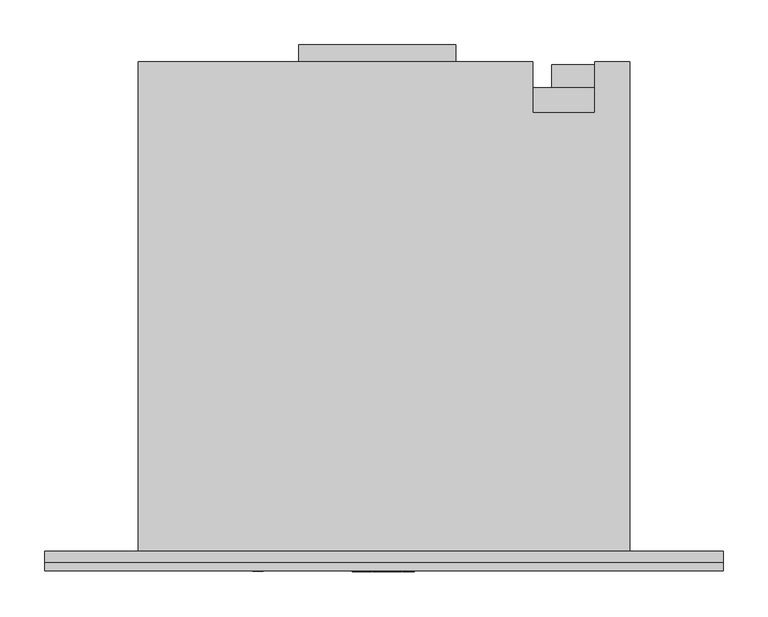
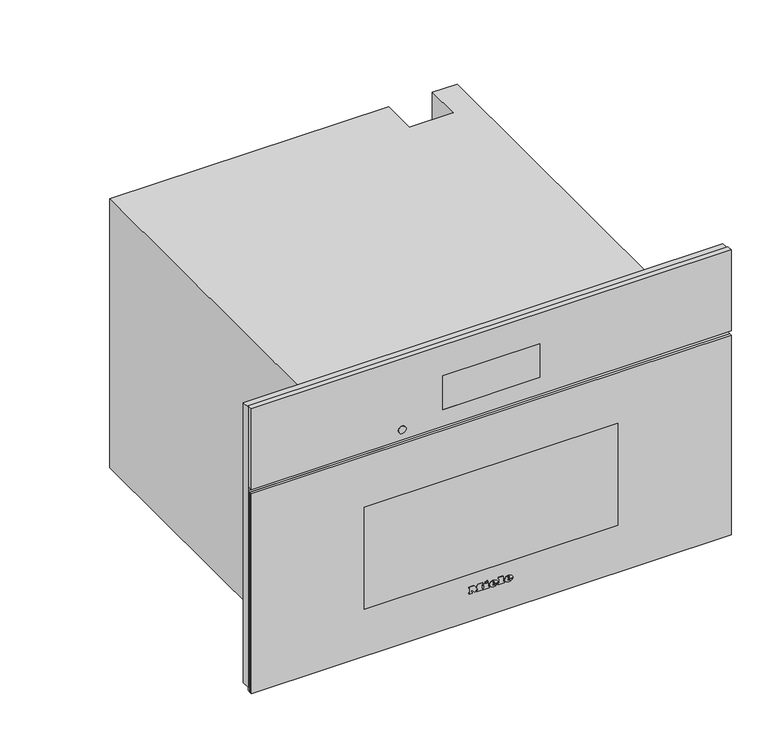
"""IFC4 building model written with IfcOpenShell, lengths in millimetres: proxy geometry, 11877030_USA_DGC7870X_GRGR : 23787072_USA_11877030_DGC7870X_GRGR."""

import ifcopenshell
import ifcopenshell.guid

model = None  # the IFC model being written
_history = None  # IfcOwnerHistory: only IFC2X3 demands one
_inside = {}  # id of a spatial element -> (the spatial element, [elements in it])
_under = {}  # id of a project, library or spatial element -> (it, [spatial elements below it])
_declared = {}  # id of a project -> (the project, [libraries it declares])
_typed = {}  # id of a type object -> (the type object, [elements of that type])
_made_of = {}  # id of a material, layer set ... -> (it, [elements and type objects made of it])


def new_model(schema):
    """Start an empty IFC model of exactly this schema.

    Asked for "IFC4X3", IfcOpenShell would pick the latest addendum, in which some entities
    have other attributes; the version numbers below select the first issue.
    IFC2X3 requires an IfcOwnerHistory on every rooted entity: one is made here for all.
    """
    global model, _history
    if schema == "IFC4X3":
        model = ifcopenshell.file(schema_version=(4, 3, 0, 0))
    else:
        model = ifcopenshell.file(schema=schema)
    _inside.clear()
    _under.clear()
    _declared.clear()
    _typed.clear()
    _made_of.clear()
    _history = None
    if model.schema == "IFC2X3":
        org = make("IfcOrganization", Name="unknown")
        user = make(
            "IfcPersonAndOrganization",
            ThePerson=make("IfcPerson", FamilyName="unknown"),
            TheOrganization=org,
        )
        app = make(
            "IfcApplication",
            ApplicationDeveloper=org,
            Version="unknown",
            ApplicationFullName="unknown",
            ApplicationIdentifier="unknown",
        )
        _history = make(
            "IfcOwnerHistory",
            OwningUser=user,
            OwningApplication=app,
            ChangeAction="ADDED",
            CreationDate=0,
        )
    return model


def make(cls, **values):
    """One entity of the class cls with the attributes given. An attribute that is None is left unset."""
    return model.create_entity(
        cls, **{name: value for name, value in values.items() if value is not None}
    )


def rooted(cls, **values):
    """An entity with a GlobalId (a new one), such as an element, a storey or a relation."""
    return make(cls, GlobalId=ifcopenshell.guid.new(), OwnerHistory=_history, **values)


def si_unit(unit_type, name, prefix=None):
    """IfcSIUnit, for example si_unit("LENGTHUNIT", "METRE", prefix="MILLI")."""
    return make("IfcSIUnit", UnitType=unit_type, Prefix=prefix, Name=name)


def assignment(units):
    """IfcUnitAssignment: the units of a project."""
    return None if units is None else make("IfcUnitAssignment", Units=units)


def point(xyz):
    """IfcCartesianPoint."""
    return None if xyz is None else make("IfcCartesianPoint", Coordinates=xyz)


def direction(xyz):
    """IfcDirection."""
    return None if xyz is None else make("IfcDirection", DirectionRatios=xyz)


def frame(location, z_axis=None, x_axis=None):
    """IfcAxis2Placement3D, a coordinate frame: its origin and axes. An axis left out is left unset."""
    return make(
        "IfcAxis2Placement3D",
        Location=point(location),
        Axis=direction(z_axis),
        RefDirection=direction(x_axis),
    )


def frame_2d(location, x_axis=None):
    """IfcAxis2Placement2D, a coordinate frame in the plane: its origin and x axis."""
    return make(
        "IfcAxis2Placement2D", Location=point(location), RefDirection=direction(x_axis)
    )


def origin():
    """The frame at (0, 0, 0) with its axes left unset."""
    return frame((0.0, 0.0, 0.0))


def place(relative_to, where):
    """IfcLocalPlacement: puts the frame where relative to a parent placement (None: the world)."""
    return make(
        "IfcLocalPlacement", PlacementRelTo=relative_to, RelativePlacement=where
    )


def context(
    kind, dimensions, precision=None, world=None, true_north=None, identifier=None
):
    """IfcGeometricRepresentationContext, for example the 3D "Model" context."""
    return make(
        "IfcGeometricRepresentationContext",
        ContextIdentifier=identifier,
        ContextType=kind,
        CoordinateSpaceDimension=dimensions,
        Precision=precision,
        WorldCoordinateSystem=world,
        TrueNorth=true_north,
    )


def project(units=None, contexts=None):
    """IfcProject with its units and contexts."""
    return rooted(
        "IfcProject",
        Name="project",
        RepresentationContexts=contexts,
        UnitsInContext=assignment(units),
    )


def spatial(cls, under=None, at=None, **own):
    """A site, building, storey or space (cls), placed at a placement, below another one or the project."""
    s = rooted(cls, ObjectPlacement=at, **own)
    if under is not None:
        _under.setdefault(under.id(), (under, []))[1].append(s)
    return s


def polyline(points):
    """IfcPolyline through the points."""
    return make("IfcPolyline", Points=[point(p) for p in points])


def circle_curve(where, radius):
    """IfcCircle in the frame where."""
    return make("IfcCircle", Position=where, Radius=radius)


def ellipse_curve(where, semi_axis1, semi_axis2):
    """IfcEllipse in the frame where."""
    return make(
        "IfcEllipse", Position=where, SemiAxis1=semi_axis1, SemiAxis2=semi_axis2
    )


def trimmed(basis, trim1, trim2, sense, master):
    """IfcTrimmedCurve: the piece of a basis curve between two trims."""
    return make(
        "IfcTrimmedCurve",
        BasisCurve=basis,
        Trim1=trim1,
        Trim2=trim2,
        SenseAgreement=sense,
        MasterRepresentation=master,
    )


def segment(curve, same_sense, transition):
    """IfcCompositeCurveSegment."""
    return make(
        "IfcCompositeCurveSegment",
        Transition=transition,
        SameSense=same_sense,
        ParentCurve=curve,
    )


def composite_curve(segments, self_intersect=None):
    """IfcCompositeCurve: segments joined end to end."""
    return make("IfcCompositeCurve", Segments=segments, SelfIntersect=self_intersect)


def outline(outer, holes=None, kind="AREA"):
    """IfcArbitraryClosedProfileDef: a profile drawn as a closed curve; with holes, ...WithVoids."""
    if holes is None:
        return make("IfcArbitraryClosedProfileDef", ProfileType=kind, OuterCurve=outer)
    return make(
        "IfcArbitraryProfileDefWithVoids",
        ProfileType=kind,
        OuterCurve=outer,
        InnerCurves=holes,
    )


def extrude(swept, where, along, depth):
    """IfcExtrudedAreaSolid: the profile swept, set in the frame where, extruded along a direction by depth."""
    return make(
        "IfcExtrudedAreaSolid",
        SweptArea=swept,
        Position=where,
        ExtrudedDirection=direction(along),
        Depth=depth,
    )


def faces_of(points, faces, orient=None, outer=None):
    """IfcFace entities. A face is a list of loops; a loop is a list of indices into points, from 0.

    orient and outer hold one flag for each loop. By default every Orientation is true, the
    first loop of a face is its IfcFaceOuterBound and the others are IfcFaceBound.
    """
    made = []
    for i, loops in enumerate(faces):
        bounds = []
        for j, loop in enumerate(loops):
            is_outer = j == 0 if outer is None else outer[i][j]
            bounds.append(
                make(
                    "IfcFaceOuterBound" if is_outer else "IfcFaceBound",
                    Bound=make("IfcPolyLoop", Polygon=[points[k] for k in loop]),
                    Orientation=True if orient is None else orient[i][j],
                )
            )
        made.append(make("IfcFace", Bounds=bounds))
    return made


def faceted_brep(points, faces, orient=None, outer=None, voids=None):
    """IfcFacetedBrep: a solid bounded by flat faces; with voids (closed shells), ...WithVoids."""
    shared = [point(p) for p in points]
    hull = make("IfcClosedShell", CfsFaces=faces_of(shared, faces, orient, outer))
    if voids is None:
        return make("IfcFacetedBrep", Outer=hull)
    return make(
        "IfcFacetedBrepWithVoids",
        Outer=hull,
        Voids=[
            make(cls, CfsFaces=faces_of(shared, fs, o, b)) for cls, fs, o, b in voids
        ],
    )


def shape(context_of_items, identifier, shape_type, items):
    """IfcShapeRepresentation: the items that make up one representation, for example the "Body"."""
    return make(
        "IfcShapeRepresentation",
        ContextOfItems=context_of_items,
        RepresentationIdentifier=identifier,
        RepresentationType=shape_type,
        Items=items,
    )


def source(mapping_origin, context_of_items, identifier, shape_type, items):
    """IfcRepresentationMap: a shape defined once, which mapped items show again and again."""
    return make(
        "IfcRepresentationMap",
        MappingOrigin=mapping_origin,
        MappedRepresentation=shape(context_of_items, identifier, shape_type, items),
    )


def transform(
    local_origin,
    x_axis=None,
    y_axis=None,
    z_axis=None,
    scale=None,
    scale2=None,
    scale3=None,
    uniform=True,
):
    """IfcCartesianTransformationOperator3D, or its non-uniform kind. x_axis, y_axis, z_axis: its Axis1, 2, 3."""
    if uniform:
        return make(
            "IfcCartesianTransformationOperator3D",
            Axis1=direction(x_axis),
            Axis2=direction(y_axis),
            LocalOrigin=point(local_origin),
            Scale=scale,
            Axis3=direction(z_axis),
        )
    return make(
        "IfcCartesianTransformationOperator3DnonUniform",
        Axis1=direction(x_axis),
        Axis2=direction(y_axis),
        LocalOrigin=point(local_origin),
        Scale=scale,
        Axis3=direction(z_axis),
        Scale2=scale2,
        Scale3=scale3,
    )


def mapped(mapping_source, mapping_target):
    """IfcMappedItem: shows the shape of a source again, moved by a transform."""
    return make(
        "IfcMappedItem", MappingSource=mapping_source, MappingTarget=mapping_target
    )


def made_of(thing, what):
    """Note that an element or type object is made of a material, layer set ...; save() writes the relation."""
    if what is not None:
        _made_of.setdefault(what.id(), (what, []))[1].append(thing)
    return thing


def element(
    cls,
    number,
    at=None,
    inside=None,
    cuts=None,
    type_object=None,
    material=None,
    context=None,
    identifier="Body",
    shape_type=None,
    held_by="IfcProductDefinitionShape",
    body=None,
    shapes=None,
    **own,
):
    """One element of the class cls, such as IfcWall. Its Tag is "e" and its number.

    at: its placement. inside: the storey or other place that contains it. cuts: it is an
    opening in that element (IfcRelVoidsElement). A single representation is given by context,
    identifier, shape_type and body (its items); several are given by shapes. held_by: the class
    of the entity that holds the representations. save() writes the other relations.
    """
    e = rooted(cls, Tag="e%d" % number, ObjectPlacement=at, **own)
    if body is not None:
        shapes = [shape(context, identifier, shape_type, body)]
    if shapes is not None:
        e.Representation = make(held_by, Representations=shapes)
    if inside is not None:
        _inside.setdefault(inside.id(), (inside, []))[1].append(e)
    if cuts is not None:
        rooted(
            "IfcRelVoidsElement", RelatingBuildingElement=cuts, RelatedOpeningElement=e
        )
    if type_object is not None:
        _typed.setdefault(type_object.id(), (type_object, []))[1].append(e)
    return made_of(e, material)


def aggregate(whole, parts):
    """IfcRelAggregates: a whole, such as a stair, and the parts it consists of."""
    return rooted("IfcRelAggregates", RelatingObject=whole, RelatedObjects=parts)


def save(model, path):
    """Write the relations noted so far, then the file.

    IfcRelAggregates (storeys below a building ...), IfcRelContainedInSpatialStructure (elements
    in a storey), IfcRelDefinesByType, IfcRelAssociatesMaterial and IfcRelDeclares: one each for
    every whole, place, type object, material and project.
    """
    for whole, parts in _under.values():
        aggregate(whole, parts)
    for where, things in _inside.values():
        rooted(
            "IfcRelContainedInSpatialStructure",
            RelatedElements=things,
            RelatingStructure=where,
        )
    for kind, things in _typed.values():
        rooted("IfcRelDefinesByType", RelatedObjects=things, RelatingType=kind)
    for what, things in _made_of.values():
        rooted("IfcRelAssociatesMaterial", RelatedObjects=things, RelatingMaterial=what)
    for by, libraries in _declared.values():
        rooted("IfcRelDeclares", RelatingContext=by, RelatedDefinitions=libraries)
    model.write(path)


def plane_surface(at):
    """IfcPlane: the flat surface through the origin of the frame at, square to its z axis."""
    return make("IfcPlane", Position=at)


def cylinder_surface(at, radius):
    """IfcCylindricalSurface: all points at the distance radius from the z axis of the frame at."""
    return make("IfcCylindricalSurface", Position=at, Radius=radius)


def revolved_surface(curve, axis_point, axis_direction):
    """IfcSurfaceOfRevolution: the curve turned about the line through axis_point along axis_direction."""
    return make(
        "IfcSurfaceOfRevolution",
        SweptCurve=make("IfcArbitraryOpenProfileDef", ProfileType="CURVE", Curve=curve),
        AxisPosition=make("IfcAxis1Placement", Location=point(axis_point), Axis=direction(axis_direction)),
    )


def extruded_surface(curve, direction_of_extrusion, depth):
    """IfcSurfaceOfLinearExtrusion: the curve pushed along a direction by depth."""
    return make(
        "IfcSurfaceOfLinearExtrusion",
        SweptCurve=make("IfcArbitraryOpenProfileDef", ProfileType="CURVE", Curve=curve),
        ExtrudedDirection=direction(direction_of_extrusion),
        Depth=depth,
    )


def advanced_brep(points, edges, surfaces, faces):
    """IfcAdvancedBrep: a solid bounded by faces that lie on surfaces and meet in shared edges.

    An edge is (start, end): straight between two places in points (the first is 0);
    or (start, end, curve); or (start, end, curve, False) where it runs against its curve.
    A face is (place in surfaces, loops), or (place, loops, False) where it looks against
    its surface's normal. A loop lists edges by number (the first is 1), with a minus sign
    where the edge is run from its end to its start. The first loop is the outer one.
    """
    corners = [point(p) for p in points]
    vertices = [make("IfcVertexPoint", VertexGeometry=c) for c in corners]
    made = []
    for start, end, *more in edges:
        made.append(
            make(
                "IfcEdgeCurve",
                EdgeStart=vertices[start],
                EdgeEnd=vertices[end],
                EdgeGeometry=more[0] if more else make("IfcPolyline", Points=[corners[start], corners[end]]),
                SameSense=more[1] if len(more) > 1 else True,
            )
        )
    hull = []
    for where, loops, *sense in faces:
        bounds = []
        for j, loop in enumerate(loops):
            ring = [make("IfcOrientedEdge", EdgeElement=made[abs(k) - 1], Orientation=k > 0) for k in loop]
            bounds.append(
                make(
                    "IfcFaceOuterBound" if j == 0 else "IfcFaceBound",
                    Bound=make("IfcEdgeLoop", EdgeList=ring),
                    Orientation=True,
                )
            )
        hull.append(make("IfcAdvancedFace", Bounds=bounds, FaceSurface=surfaces[where], SameSense=sense[0] if sense else True))
    return make("IfcAdvancedBrep", Outer=make("IfcClosedShell", CfsFaces=hull))


def specialty_equipment_b96cb7f9(model_context):
    return source(origin(), model_context, "Body", "SolidModel", [
        faceted_brep([(378.5, -13.0, 476.0), (-378.5, -13.0, 476.0), (-378.5, -13.0, 9.0), (-272.5, -13.0, 9.0), (-272.5, -13.0, 344.0), (272.5, -13.0, 344.0), (272.5, -13.0, 9.0), (378.5, -13.0, 9.0), (378.5, 0.0, 476.0), (378.5, 0.0, 9.0), (-378.5, 0.0, 9.0), (-378.5, 0.0, 476.0), (231.0, 0.0, 58.0), (231.0, 0.0, 286.0), (-231.0, 0.0, 286.0), (-231.0, 0.0, 58.0), (272.5, -5.0, 9.0), (-272.5, -5.0, 9.0), (-272.5, -5.0, 344.0), (272.5, -5.0, 344.0), (231.0, -5.0, 286.0), (231.0, -5.0, 58.0), (-231.0, -5.0, 58.0), (-231.0, -5.0, 286.0)], [[[0, 1, 2, 3, 4, 5, 6, 7]], [[8, 9, 10, 11], [12, 13, 14, 15]], [[1, 0, 8, 11]], [[2, 1, 11, 10]], [[10, 9, 7, 6, 16, 17, 3, 2]], [[0, 7, 9, 8]], [[18, 19, 5, 4]], [[18, 4, 3, 17]], [[5, 19, 16, 6]], [[19, 18, 17, 16], [20, 21, 22, 23]], [[20, 13, 12, 21]], [[21, 12, 15, 22]], [[22, 15, 14, 23]], [[13, 20, 23, 14]]]),
        extrude(outline(polyline([(-95.0, 565.0), (80.0, 565.0), (80.0, 546.0), (-95.0, 546.0), (-95.0, 565.0)])), frame((0.0, 0.0, 260.0), z_axis=(0.0, 0.0, 1.0), x_axis=(1.0, 0.0, 0.0)), (0.0, 0.0, 1.0), 1.0),
        extrude(outline(polyline([(224.8383288, 537.0), (231.1236409, 537.0), (231.1236409, 526.9492425), (229.8571792, 526.9492425), (229.8571792, 535.7409796), (224.8383288, 535.7409796), (224.8383288, 537.0)])), frame((0.0, 0.0, 132.0), z_axis=(0.0, 0.0, 1.0), x_axis=(1.0, 0.0, 0.0)), (0.0, 0.0, 1.0), 1.0),
        extrude(outline(polyline([(233.0, 537.0), (240.3797826, 537.0), (240.3797826, 526.9503529), (233.15422, 526.9503529), (233.15422, 528.220938), (239.1355215, 528.220938), (239.1355215, 531.1975645), (233.4863097, 531.1975645), (233.4863097, 532.449242), (239.1355215, 532.449242), (239.1355215, 535.7448633), (233.0, 535.7448633), (233.0, 537.0)])), frame((0.0, 0.0, 132.0), z_axis=(0.0, 0.0, 1.0), x_axis=(1.0, 0.0, 0.0)), (0.0, 0.0, 1.0), 1.0),
        extrude(outline(composite_curve([segment(trimmed(circle_curve(frame_2d((233.0, 532.0)), 7.5), [point((225.5, 532.0))], [point((240.5, 532.0))], False, "CARTESIAN"), True, "CONTINUOUS"), segment(trimmed(circle_curve(frame_2d((233.0, 532.0)), 7.5), [point((240.5, 532.0))], [point((225.5, 532.0))], False, "CARTESIAN"), True, "CONTINUOUS")], self_intersect=False)), frame((0.0, 0.0, 133.0), z_axis=(0.0, 0.0, 1.0), x_axis=(1.0, 0.0, 0.0)), (0.0, 0.0, 1.0), 30.0),
        extrude(outline(polyline([(266.0, 517.0), (187.0, 517.0), (187.0, 543.0), (266.0, 543.0), (266.0, 517.0)])), frame((0.0, 0.0, 163.0), z_axis=(0.0, 0.0, 1.0), x_axis=(1.0, 0.0, 0.0)), (0.0, 0.0, 1.0), 111.0),
        faceted_brep([(-274.0, 546.0, 0.0), (-274.0, 546.0, 448.0), (166.0, 546.0, 448.0), (166.0, 546.0, 0.0), (235.0, 546.0, 448.0), (274.0, 546.0, 448.0), (274.0, 546.0, 338.0), (235.0, 546.0, 338.0), (274.0, 0.0, 448.0), (-274.0, 0.0, 448.0), (-274.0, 0.0, 0.0), (274.0, 0.0, 0.0), (231.0, 0.0, 286.0), (231.0, 0.0, 58.0), (-231.0, 0.0, 58.0), (-231.0, 0.0, 286.0), (235.0, 489.0, 448.0), (166.0, 489.0, 448.0), (166.0, 517.0, 0.0), (274.0, 517.0, 0.0), (274.0, 517.0, 338.0), (231.0, 411.0, 286.0), (-231.0, 411.0, 286.0), (-231.0, 411.0, 58.0), (231.0, 411.0, 58.0), (235.0, 489.0, 337.0), (166.0, 489.0, 337.0), (166.0, 517.0, 337.0), (235.0, 517.0, 337.0), (235.0, 517.0, 338.0)], [[[0, 1, 2, 3]], [[4, 5, 6, 7]], [[8, 9, 10, 11], [12, 13, 14, 15]], [[9, 8, 5, 4, 16, 17, 2, 1]], [[1, 0, 10, 9]], [[11, 10, 0, 3, 18, 19]], [[8, 11, 19, 20, 6, 5]], [[21, 22, 23, 24]], [[21, 24, 13, 12]], [[24, 23, 14, 13]], [[23, 22, 15, 14]], [[22, 21, 12, 15]], [[16, 25, 26, 17]], [[17, 26, 27, 18, 3, 2]], [[26, 25, 28, 27]], [[25, 16, 4, 7, 29, 28]], [[29, 20, 19, 18, 27, 28]], [[20, 29, 7, 6]]]),
        advanced_brep(
        [(26.2998, -23.0, 52.7018), (26.2998, -23.0, 53.8532), (33.9264, -23.0, 53.8532), (20.6568, -23.0, 53.8532), (23.7918, -23.0, 50.0), (33.7326, -23.0, 52.7018), (30.2898, -23.0, 52.7018), (27.5766, -23.0, 51.425), (26.2998, -23.0, 55.3124), (26.2998, -23.0, 56.555), (28.2492, -23.0, 56.555), (28.2492, -23.0, 55.3124), (26.2998, -22.0, 52.7018), (27.5766, -22.0, 51.425), (30.2898, -22.0, 52.7018), (33.7326, -22.0, 52.7018), (23.7918, -22.0, 50.0), (20.6568, -22.0, 53.8532), (33.9264, -22.0, 53.8532), (26.2998, -22.0, 53.8532), (26.2998, -22.0, 55.3124), (28.2492, -22.0, 55.3124), (28.2492, -22.0, 56.555), (26.2998, -22.0, 56.555)],
        [
            (0, 1),
            (1, 2),
            (2, 3, ellipse_curve(frame((27.2916, -23.0, 53.8532), z_axis=(0.0, -1.0, 0.0), x_axis=(-1.0, 0.0, 0.0)), 6.6348, 5.4834)),
            (3, 4, circle_curve(frame((25.0686622, -23.0, 54.2408), z_axis=(0.0, -1.0, 0.0), x_axis=(0.0, 0.0, -1.0)), 4.4288556)),
            (4, 5, circle_curve(frame((27.1587808, -23.0, 57.2504), z_axis=(0.0, -1.0, 0.0), x_axis=(0.0, 0.0, -1.0)), 7.9940516)),
            (5, 6),
            (6, 7, circle_curve(frame((28.1338588, -23.0, 53.762), z_axis=(0.0, 1.0, 0.0), x_axis=(0.0, 0.0, -1.0)), 2.4025208)),
            (7, 0, circle_curve(frame((27.5766, -23.0, 52.7018), z_axis=(0.0, 1.0, 0.0), x_axis=(0.0, 0.0, -1.0)), 1.2768)),
            (8, 9),
            (9, 10, circle_curve(frame((27.2745, -23.0, 56.555), z_axis=(0.0, 1.0, 0.0), x_axis=(0.0, 0.0, -1.0)), 0.9747)),
            (10, 11),
            (11, 8),
            (12, 13, circle_curve(frame((27.5766, -22.0, 52.7018), z_axis=(0.0, -1.0, 0.0), x_axis=(0.0, 0.0, -1.0)), 1.2768)),
            (13, 14, circle_curve(frame((28.1338588, -22.0, 53.762), z_axis=(0.0, -1.0, 0.0), x_axis=(0.0, 0.0, -1.0)), 2.4025208)),
            (14, 15),
            (15, 16, circle_curve(frame((27.1587808, -22.0, 57.2504), z_axis=(0.0, 1.0, 0.0), x_axis=(0.0, 0.0, -1.0)), 7.9940516)),
            (16, 17, circle_curve(frame((25.0686622, -22.0, 54.2408), z_axis=(0.0, 1.0, 0.0), x_axis=(0.0, 0.0, -1.0)), 4.4288556)),
            (17, 18, ellipse_curve(frame((27.2916, -22.0, 53.8532), z_axis=(0.0, 1.0, 0.0), x_axis=(-1.0, 0.0, 0.0)), 6.6348, 5.4834)),
            (18, 19),
            (19, 12),
            (20, 21),
            (21, 22),
            (22, 23, circle_curve(frame((27.2745, -22.0, 56.555), z_axis=(0.0, -1.0, 0.0), x_axis=(0.0, 0.0, -1.0)), 0.9747)),
            (23, 20),
            (0, 12),
            (19, 1),
            (18, 2),
            (5, 15),
            (14, 6),
            (17, 3),
            (13, 7),
            (16, 4),
            (8, 20),
            (23, 9),
            (22, 10),
            (21, 11),
        ],
        [
            plane_surface(frame((26.2998, -23.0, 53.8532), z_axis=(0.0, -1.0, 0.0), x_axis=(0.0, 0.0, 1.0))),
            plane_surface(frame((26.2998, -22.0, 53.8532), z_axis=(0.0, 1.0, 0.0), x_axis=(0.0, 0.0, -1.0))),
            plane_surface(frame((26.2998, -23.0, 52.7018), z_axis=(1.0, 0.0, 0.0), x_axis=(0.0, 1.0, 0.0))),
            plane_surface(frame((26.2998, -23.0, 53.8532), z_axis=(0.0, 0.0, -1.0), x_axis=(0.0, 1.0, 0.0))),
            plane_surface(frame((33.7326, -23.0, 52.7018), z_axis=(0.0, 0.0, 1.0), x_axis=(0.0, 1.0, 0.0))),
            extruded_surface(trimmed(ellipse_curve(frame((27.2916, -21.0, 53.8532), z_axis=(0.0, -1.0, 0.0), x_axis=(-1.0, 0.0, 0.0)), 6.6348, 5.4834), [point((33.9264, -21.0, 53.8532))], [point((20.6568, -21.0, 53.8532))], True, "CARTESIAN"), (0.0, -1.0, 0.0), 1.0),
            revolved_surface(polyline([(28.1338588, -22.0, 51.3594792), (28.1338588, -23.0, 51.3594792)]), (28.1338588, -22.0, 53.762), (0.0, 1.0, 0.0)),
            revolved_surface(polyline([(27.5766, -22.0, 51.425), (27.5766, -23.0, 51.425)]), (27.5766, -22.0, 52.7018), (0.0, 1.0, 0.0)),
            cylinder_surface(frame((25.0686622, -22.0, 54.2408), z_axis=(0.0, -1.0, 0.0), x_axis=(0.0, 0.0, -1.0)), 4.4288556),
            cylinder_surface(frame((27.1587808, -22.0, 57.2504), z_axis=(0.0, -1.0, 0.0), x_axis=(0.0, 0.0, -1.0)), 7.9940516),
            plane_surface(frame((26.2998, -23.0, 55.3124), z_axis=(1.0, 0.0, 0.0), x_axis=(0.0, 1.0, 0.0))),
            revolved_surface(polyline([(27.2745, -22.0, 55.5803), (27.2745, -23.0, 55.5803)]), (27.2745, -22.0, 56.555), (0.0, 1.0, 0.0)),
            plane_surface(frame((28.2492, -23.0, 56.555), z_axis=(-1.0, 0.0, 0.0), x_axis=(0.0, 1.0, 0.0))),
            plane_surface(frame((28.2492, -23.0, 55.3124), z_axis=(0.0, 0.0, 1.0), x_axis=(0.0, 1.0, 0.0))),
        ],
        [
            (0, [[1, 2, 3, 4, 5, 6, 7, 8], [9, 10, 11, 12]]),
            (1, [[13, 14, 15, 16, 17, 18, 19, 20], [21, 22, 23, 24]]),
            (2, [[-1, 25, -20, 26]]),
            (3, [[-2, -26, -19, 27]]),
            (4, [[-6, 28, -15, 29]]),
            (5, [[-3, -27, -18, 30]]),
            (6, [[-7, -29, -14, 31]]),
            (7, [[-8, -31, -13, -25]]),
            (8, [[-4, -30, -17, 32]]),
            (9, [[-5, -32, -16, -28]]),
            (10, [[-9, 33, -24, 34]]),
            (11, [[-10, -34, -23, 35]]),
            (12, [[-11, -35, -22, 36]]),
            (13, [[-12, -36, -21, -33]]),
        ],
    ),
        advanced_brep(
        [(2.508, -23.0, 52.7018), (2.508, -23.0, 53.8532), (10.1346, -23.0, 53.8532), (-3.135, -23.0, 53.8532), (0.0, -23.0, 50.0), (9.9408, -23.0, 52.7018), (6.498, -23.0, 52.7018), (3.7848, -23.0, 51.425), (2.508, -23.0, 55.3124), (2.508, -23.0, 56.555), (4.4574, -23.0, 56.555), (4.4574, -23.0, 55.3124), (2.508, -22.0, 52.7018), (3.7848, -22.0, 51.425), (6.498, -22.0, 52.7018), (9.9408, -22.0, 52.7018), (0.0, -22.0, 50.0), (-3.135, -22.0, 53.8532), (10.1346, -22.0, 53.8532), (2.508, -22.0, 53.8532), (2.508, -22.0, 55.3124), (4.4574, -22.0, 55.3124), (4.4574, -22.0, 56.555), (2.508, -22.0, 56.555)],
        [
            (0, 1),
            (1, 2),
            (2, 3, ellipse_curve(frame((3.4998, -23.0, 53.8532), z_axis=(0.0, -1.0, 0.0), x_axis=(-1.0, 0.0, 0.0)), 6.6348, 5.4834)),
            (3, 4, circle_curve(frame((1.2768622, -23.0, 54.2408), z_axis=(0.0, -1.0, 0.0), x_axis=(0.0, 0.0, -1.0)), 4.4288556)),
            (4, 5, circle_curve(frame((3.3669808, -23.0, 57.2504), z_axis=(0.0, -1.0, 0.0), x_axis=(0.0, 0.0, -1.0)), 7.9940516)),
            (5, 6),
            (6, 7, circle_curve(frame((4.3420588, -23.0, 53.762), z_axis=(0.0, 1.0, 0.0), x_axis=(0.0, 0.0, -1.0)), 2.4025208)),
            (7, 0, circle_curve(frame((3.7848, -23.0, 52.7018), z_axis=(0.0, 1.0, 0.0), x_axis=(0.0, 0.0, -1.0)), 1.2768)),
            (8, 9),
            (9, 10, circle_curve(frame((3.4827, -23.0, 56.555), z_axis=(0.0, 1.0, 0.0), x_axis=(0.0, 0.0, -1.0)), 0.9747)),
            (10, 11),
            (11, 8),
            (12, 13, circle_curve(frame((3.7848, -22.0, 52.7018), z_axis=(0.0, -1.0, 0.0), x_axis=(0.0, 0.0, -1.0)), 1.2768)),
            (13, 14, circle_curve(frame((4.3420588, -22.0, 53.762), z_axis=(0.0, -1.0, 0.0), x_axis=(0.0, 0.0, -1.0)), 2.4025208)),
            (14, 15),
            (15, 16, circle_curve(frame((3.3669808, -22.0, 57.2504), z_axis=(0.0, 1.0, 0.0), x_axis=(0.0, 0.0, -1.0)), 7.9940516)),
            (16, 17, circle_curve(frame((1.2768622, -22.0, 54.2408), z_axis=(0.0, 1.0, 0.0), x_axis=(0.0, 0.0, -1.0)), 4.4288556)),
            (17, 18, ellipse_curve(frame((3.4998, -22.0, 53.8532), z_axis=(0.0, 1.0, 0.0), x_axis=(-1.0, 0.0, 0.0)), 6.6348, 5.4834)),
            (18, 19),
            (19, 12),
            (20, 21),
            (21, 22),
            (22, 23, circle_curve(frame((3.4827, -22.0, 56.555), z_axis=(0.0, -1.0, 0.0), x_axis=(0.0, 0.0, -1.0)), 0.9747)),
            (23, 20),
            (0, 12),
            (19, 1),
            (18, 2),
            (5, 15),
            (14, 6),
            (17, 3),
            (13, 7),
            (16, 4),
            (8, 20),
            (23, 9),
            (22, 10),
            (21, 11),
        ],
        [
            plane_surface(frame((2.508, -23.0, 53.8532), z_axis=(0.0, -1.0, 0.0), x_axis=(0.0, 0.0, 1.0))),
            plane_surface(frame((2.508, -22.0, 53.8532), z_axis=(0.0, 1.0, 0.0), x_axis=(0.0, 0.0, -1.0))),
            plane_surface(frame((2.508, -23.0, 52.7018), z_axis=(1.0, 0.0, 0.0), x_axis=(0.0, 1.0, 0.0))),
            plane_surface(frame((2.508, -23.0, 53.8532), z_axis=(0.0, 0.0, -1.0), x_axis=(0.0, 1.0, 0.0))),
            plane_surface(frame((9.9408, -23.0, 52.7018), z_axis=(0.0, 0.0, 1.0), x_axis=(0.0, 1.0, 0.0))),
            extruded_surface(trimmed(ellipse_curve(frame((3.4998, -21.0, 53.8532), z_axis=(0.0, -1.0, 0.0), x_axis=(-1.0, 0.0, 0.0)), 6.6348, 5.4834), [point((10.1346, -21.0, 53.8532))], [point((-3.135, -21.0, 53.8532))], True, "CARTESIAN"), (0.0, -1.0, 0.0), 1.0),
            revolved_surface(polyline([(4.3420588, -22.0, 51.3594792), (4.3420588, -23.0, 51.3594792)]), (4.3420588, -22.0, 53.762), (0.0, 1.0, 0.0)),
            revolved_surface(polyline([(3.7848, -22.0, 51.425), (3.7848, -23.0, 51.425)]), (3.7848, -22.0, 52.7018), (0.0, 1.0, 0.0)),
            cylinder_surface(frame((1.2768622, -22.0, 54.2408), z_axis=(0.0, -1.0, 0.0), x_axis=(0.0, 0.0, -1.0)), 4.4288556),
            cylinder_surface(frame((3.3669808, -22.0, 57.2504), z_axis=(0.0, -1.0, 0.0), x_axis=(0.0, 0.0, -1.0)), 7.9940516),
            plane_surface(frame((2.508, -23.0, 55.3124), z_axis=(1.0, 0.0, 0.0), x_axis=(0.0, 1.0, 0.0))),
            revolved_surface(polyline([(3.4827, -22.0, 55.5803), (3.4827, -23.0, 55.5803)]), (3.4827, -22.0, 56.555), (0.0, 1.0, 0.0)),
            plane_surface(frame((4.4574, -23.0, 56.555), z_axis=(-1.0, 0.0, 0.0), x_axis=(0.0, 1.0, 0.0))),
            plane_surface(frame((4.4574, -23.0, 55.3124), z_axis=(0.0, 0.0, 1.0), x_axis=(0.0, 1.0, 0.0))),
        ],
        [
            (0, [[1, 2, 3, 4, 5, 6, 7, 8], [9, 10, 11, 12]]),
            (1, [[13, 14, 15, 16, 17, 18, 19, 20], [21, 22, 23, 24]]),
            (2, [[-1, 25, -20, 26]]),
            (3, [[-2, -26, -19, 27]]),
            (4, [[-6, 28, -15, 29]]),
            (5, [[-3, -27, -18, 30]]),
            (6, [[-7, -29, -14, 31]]),
            (7, [[-8, -31, -13, -25]]),
            (8, [[-4, -30, -17, 32]]),
            (9, [[-5, -32, -16, -28]]),
            (10, [[-9, 33, -24, 34]]),
            (11, [[-10, -34, -23, 35]]),
            (12, [[-11, -35, -22, 36]]),
            (13, [[-12, -36, -21, -33]]),
        ],
    ),
        extrude(outline(polyline([(60.7274, -9.9522), (58.8806, -9.0858), (60.6818, -5.2212), (62.5286, -6.0762), (60.7274, -9.9522)])), frame((0.0, -23.0, 0.0), z_axis=(0.0, 1.0, 0.0), x_axis=(0.0, 0.0, 1.0)), (0.0, 0.0, 1.0), 1.0),
        extrude(outline(polyline([(58.6298, -12.768), (56.5892, -12.768), (56.5892, -11.4114), (51.9152, -11.4114), (51.9152, -12.768), (50.0, -12.768), (50.0, -3.7734), (51.9152, -3.7734), (51.9152, -5.0958), (58.6298, -5.0958), (58.6298, -12.768)])), frame((0.0, -23.0, 0.0), z_axis=(0.0, 1.0, 0.0), x_axis=(0.0, 0.0, 1.0)), (0.0, 0.0, 1.0), 1.0),
        extrude(outline(polyline([(59.5418, 10.773), (59.5418, 12.141), (51.9152, 12.141), (51.9152, 10.773), (50.0, 10.773), (50.0, 20.0184), (51.9152, 20.0184), (51.9152, 18.6162), (61.4, 18.6162), (61.4, 10.773), (59.5418, 10.773)])), frame((0.0, -23.0, 0.0), z_axis=(0.0, 1.0, 0.0), x_axis=(0.0, 0.0, 1.0)), (0.0, 0.0, 1.0), 1.0),
        extrude(outline(polyline([(59.5418, -35.4882), (59.5418, -34.1088), (51.9152, -34.1088), (51.9152, -35.4882), (50.0, -35.4882), (50.0, -30.4722), (51.9152, -30.4722), (51.9152, -31.8402), (56.7429247, -31.8402), (50.0, -26.7444), (56.9402223, -21.6258), (51.9152, -21.6258), (51.9152, -23.028), (50.0, -23.028), (50.0, -13.9308), (51.9152, -13.9308), (51.9152, -15.3786), (59.5418, -15.3786), (59.5418, -13.9308), (61.4, -13.9308), (61.4, -20.8734), (57.125, -24.2022), (61.4, -27.5424), (61.4, -35.4882), (59.5418, -35.4882)])), frame((0.0, -23.0, 0.0), z_axis=(0.0, 1.0, 0.0), x_axis=(0.0, 0.0, 1.0)), (0.0, 0.0, 1.0), 1.0),
        extrude(outline(composite_curve([segment(trimmed(circle_curve(frame_2d((361.0, -140.5745637)), 6.0), [point((361.0, -146.5745637))], [point((361.0, -134.5745637))], False, "CARTESIAN"), True, "CONTINUOUS"), segment(trimmed(circle_curve(frame_2d((361.0, -140.5745637)), 6.0), [point((361.0, -134.5745637))], [point((361.0, -146.5745637))], False, "CARTESIAN"), True, "CONTINUOUS")], self_intersect=False)), frame((0.0, -22.5, 0.0), z_axis=(0.0, 1.0, 0.0), x_axis=(0.0, 0.0, 1.0)), (0.0, 0.0, 1.0), 1.0),
        extrude(outline(polyline([(-76.5, -21.0), (76.5, -21.0), (76.5, -22.0), (-76.5, -22.0), (-76.5, -21.0)])), frame((0.0, 0.0, 372.0), z_axis=(0.0, 0.0, 1.0), x_axis=(1.0, 0.0, 0.0)), (0.0, 0.0, 1.0), 56.0),
        faceted_brep([(378.5, -22.0, 479.0), (-378.5, -22.0, 479.0), (-378.5, -22.0, 344.0), (378.5, -22.0, 344.0), (76.5, -22.0, 428.0), (76.5, -22.0, 372.0), (-76.5, -22.0, 372.0), (-76.5, -22.0, 428.0), (378.5, -13.0, 479.0), (378.5, -13.0, 344.0), (-378.5, -13.0, 344.0), (-378.5, -13.0, 479.0), (76.5, -21.0, 428.0), (-76.5, -21.0, 428.0), (-76.5, -21.0, 372.0), (76.5, -21.0, 372.0)], [[[0, 1, 2, 3], [4, 5, 6, 7]], [[8, 9, 10, 11]], [[1, 0, 8, 11]], [[2, 1, 11, 10]], [[3, 2, 10, 9]], [[0, 3, 9, 8]], [[12, 13, 14, 15]], [[12, 15, 5, 4]], [[15, 14, 6, 5]], [[14, 13, 7, 6]], [[13, 12, 4, 7]]]),
        extrude(outline(polyline([(200.0, -22.0), (-200.0, -22.0), (-200.0, -18.0), (200.0, -18.0), (200.0, -22.0)])), frame((0.0, 0.0, 82.0), z_axis=(0.0, 0.0, 1.0), x_axis=(1.0, 0.0, 0.0)), (0.0, 0.0, 1.0), 170.0),
        extrude(outline(polyline([(337.0, 378.5), (337.0, -378.5), (4.0, -378.5), (4.0, 378.5), (337.0, 378.5)]), holes=[polyline([(252.0, -200.0), (252.0, 200.0), (82.0, 200.0), (82.0, -200.0), (252.0, -200.0)])]), frame((0.0, -22.0, 0.0), z_axis=(0.0, 1.0, 0.0), x_axis=(0.0, 0.0, 1.0)), (0.0, 0.0, 1.0), 4.0),
        extrude(outline(polyline([(378.5, -18.0), (-378.5, -18.0), (-378.5, -13.0), (378.5, -13.0), (378.5, -18.0)])), frame((0.0, 0.0, 4.0), z_axis=(0.0, 0.0, 1.0), x_axis=(1.0, 0.0, 0.0)), (0.0, 0.0, 1.0), 333.0),
    ])


if __name__ == "__main__":
    model = new_model("IFC4")
    model_context = context("Model", 3, world=origin())
    ifc_project = project(units=[si_unit("LENGTHUNIT", "METRE", prefix="MILLI")], contexts=[model_context])
    site = spatial("IfcSite", under=ifc_project)
    building = spatial("IfcBuilding", under=site)
    placement = place(None, origin())
    specialty_equipment_shape = specialty_equipment_b96cb7f9(model_context)
    element("IfcBuildingElementProxy", 1, Name="11877030_USA_DGC7870X_GRGR : 23787072_USA_11877030_DGC7870X_GRGR", ObjectType="11877030_USA_DGC7870X_GRGR : 23787072_USA_11877030_DGC7870X_GRGR", at=placement, inside=building, context=model_context, shape_type="MappedRepresentation", body=[
        mapped(specialty_equipment_shape, transform((0.0, 0.0, 0.0), x_axis=(1.0, 0.0, 0.0), y_axis=(0.0, 1.0, 0.0), z_axis=(0.0, 0.0, 1.0))),
    ])
    save(model, "model.ifc")
